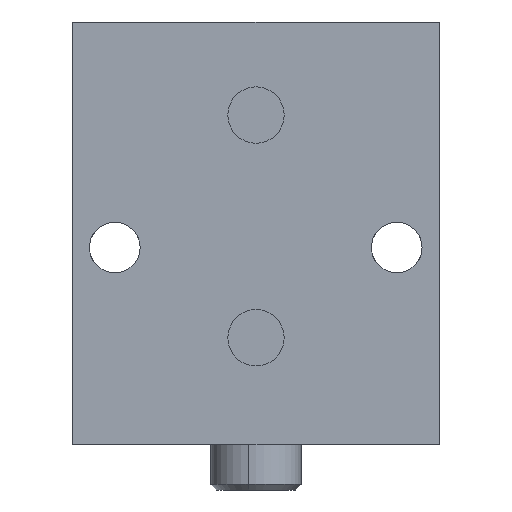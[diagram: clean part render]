
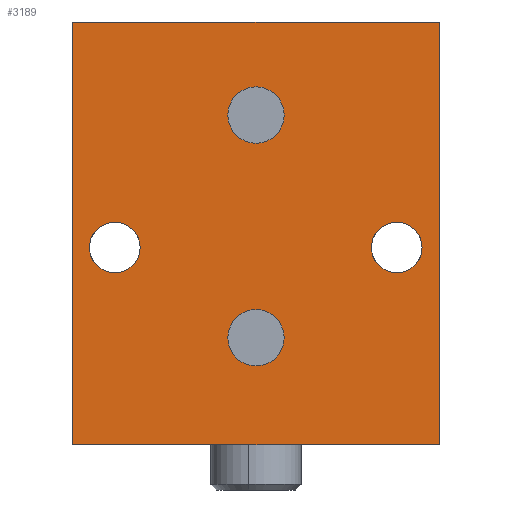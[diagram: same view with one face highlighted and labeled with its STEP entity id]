
A CAD part, front view. The second image highlights one B-rep face of the part: STEP entity #3189.
In plain terms, the highlighted planar face has unit normal (0, -1, 0).
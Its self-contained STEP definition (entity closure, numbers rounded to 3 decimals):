
#67 = VECTOR ( 'NONE', #11872, 1000. ) ;
#77 = CARTESIAN_POINT ( 'NONE',  ( -32.5, 0., -35. ) ) ;
#121 = CARTESIAN_POINT ( 'NONE',  ( -25.045, 0., 4.5 ) ) ;
#279 = AXIS2_PLACEMENT_3D ( 'NONE', #2925, #9216, #3867 ) ;
#339 = ORIENTED_EDGE ( 'NONE', *, *, #9874, .F. ) ;
#384 = FACE_BOUND ( 'NONE', #634, .T. ) ;
#634 = EDGE_LOOP ( 'NONE', ( #4703, #4263 ) ) ;
#720 = DIRECTION ( 'NONE',  ( 0., 0., 1. ) ) ;
#764 = EDGE_CURVE ( 'NONE', #960, #7066, #5320, .T. ) ;
#808 = EDGE_LOOP ( 'NONE', ( #8511, #10202, #4002, #1105 ) ) ;
#810 = EDGE_CURVE ( 'NONE', #7821, #5340, #4740, .T. ) ;
#827 = VERTEX_POINT ( 'NONE', #7441 ) ;
#833 = CARTESIAN_POINT ( 'NONE',  ( 0., 0., 23.5 ) ) ;
#957 = CARTESIAN_POINT ( 'NONE',  ( 0., 0., -16. ) ) ;
#960 = VERTEX_POINT ( 'NONE', #5063 ) ;
#978 = VERTEX_POINT ( 'NONE', #2226 ) ;
#1038 = FACE_BOUND ( 'NONE', #9457, .T. ) ;
#1087 = ORIENTED_EDGE ( 'NONE', *, *, #810, .T. ) ;
#1105 = ORIENTED_EDGE ( 'NONE', *, *, #2781, .F. ) ;
#1321 = EDGE_CURVE ( 'NONE', #7761, #3093, #11622, .T. ) ;
#1461 = CARTESIAN_POINT ( 'NONE',  ( 0., 0., -21. ) ) ;
#1484 = CIRCLE ( 'NONE', #11752, 4.5 ) ;
#1612 = CARTESIAN_POINT ( 'NONE',  ( 24.955, 0., 4.5 ) ) ;
#1700 = CARTESIAN_POINT ( 'NONE',  ( 0., 0., 23.5 ) ) ;
#1841 = DIRECTION ( 'NONE',  ( 0., 0., -1. ) ) ;
#1846 = VERTEX_POINT ( 'NONE', #6250 ) ;
#1913 = CIRCLE ( 'NONE', #11852, 5. ) ;
#1963 = DIRECTION ( 'NONE',  ( 0., 0., -1. ) ) ;
#2067 = ORIENTED_EDGE ( 'NONE', *, *, #5590, .T. ) ;
#2070 = CIRCLE ( 'NONE', #8805, 5. ) ;
#2226 = CARTESIAN_POINT ( 'NONE',  ( 0., 0., -11. ) ) ;
#2290 = LINE ( 'NONE', #11213, #7447 ) ;
#2426 = ORIENTED_EDGE ( 'NONE', *, *, #5560, .F. ) ;
#2698 = DIRECTION ( 'NONE',  ( 0., 0., -1. ) ) ;
#2744 = CARTESIAN_POINT ( 'NONE',  ( 24.955, 0., 0. ) ) ;
#2775 = CARTESIAN_POINT ( 'NONE',  ( 0., 0., -16. ) ) ;
#2781 = EDGE_CURVE ( 'NONE', #827, #960, #2290, .T. ) ;
#2828 = DIRECTION ( 'NONE',  ( 0., 1., 0. ) ) ;
#2925 = CARTESIAN_POINT ( 'NONE',  ( -25.045, 0., 0. ) ) ;
#3055 = FACE_BOUND ( 'NONE', #7521, .T. ) ;
#3091 = ORIENTED_EDGE ( 'NONE', *, *, #7170, .T. ) ;
#3093 = VERTEX_POINT ( 'NONE', #1612 ) ;
#3189 = ADVANCED_FACE ( 'NONE', ( #384, #5571, #1038, #3055, #9911 ), #7319, .F. ) ;
#3674 = DIRECTION ( 'NONE',  ( 0., 0., 1. ) ) ;
#3703 = DIRECTION ( 'NONE',  ( 0., 0., -1. ) ) ;
#3867 = DIRECTION ( 'NONE',  ( 0., 0., 1. ) ) ;
#3914 = CIRCLE ( 'NONE', #7767, 5. ) ;
#4002 = ORIENTED_EDGE ( 'NONE', *, *, #764, .F. ) ;
#4263 = ORIENTED_EDGE ( 'NONE', *, *, #7099, .F. ) ;
#4395 = VERTEX_POINT ( 'NONE', #4562 ) ;
#4526 = VECTOR ( 'NONE', #6758, 1000. ) ;
#4562 = CARTESIAN_POINT ( 'NONE',  ( 0., 0., 28.5 ) ) ;
#4689 = LINE ( 'NONE', #8333, #10588 ) ;
#4703 = ORIENTED_EDGE ( 'NONE', *, *, #6697, .F. ) ;
#4740 = CIRCLE ( 'NONE', #279, 4.5 ) ;
#4792 = CARTESIAN_POINT ( 'NONE',  ( 32.5, 0., -35. ) ) ;
#5063 = CARTESIAN_POINT ( 'NONE',  ( 32.5, 0., 40. ) ) ;
#5320 = LINE ( 'NONE', #4792, #67 ) ;
#5340 = VERTEX_POINT ( 'NONE', #121 ) ;
#5560 = EDGE_CURVE ( 'NONE', #1846, #4395, #2070, .T. ) ;
#5571 = FACE_BOUND ( 'NONE', #5795, .T. ) ;
#5590 = EDGE_CURVE ( 'NONE', #5340, #7821, #9049, .T. ) ;
#5671 = DIRECTION ( 'NONE',  ( 0., 1., 0. ) ) ;
#5775 = CARTESIAN_POINT ( 'NONE',  ( -25.045, 0., -4.5 ) ) ;
#5795 = EDGE_LOOP ( 'NONE', ( #2426, #339 ) ) ;
#6250 = CARTESIAN_POINT ( 'NONE',  ( 0., 0., 18.5 ) ) ;
#6413 = DIRECTION ( 'NONE',  ( 0., 1., 0. ) ) ;
#6420 = VERTEX_POINT ( 'NONE', #1461 ) ;
#6697 = EDGE_CURVE ( 'NONE', #6420, #978, #3914, .T. ) ;
#6758 = DIRECTION ( 'NONE',  ( 0., 0., 1. ) ) ;
#7066 = VERTEX_POINT ( 'NONE', #10592 ) ;
#7099 = EDGE_CURVE ( 'NONE', #978, #6420, #11116, .T. ) ;
#7170 = EDGE_CURVE ( 'NONE', #3093, #7761, #1484, .T. ) ;
#7282 = EDGE_CURVE ( 'NONE', #7066, #9573, #4689, .T. ) ;
#7319 = PLANE ( 'NONE',  #11299 ) ;
#7369 = DIRECTION ( 'NONE',  ( 0., -1., 0. ) ) ;
#7441 = CARTESIAN_POINT ( 'NONE',  ( -32.5, 0., 40. ) ) ;
#7447 = VECTOR ( 'NONE', #12049, 1000. ) ;
#7469 = DIRECTION ( 'NONE',  ( 0., -1., 0. ) ) ;
#7521 = EDGE_LOOP ( 'NONE', ( #3091, #10604 ) ) ;
#7761 = VERTEX_POINT ( 'NONE', #9936 ) ;
#7767 = AXIS2_PLACEMENT_3D ( 'NONE', #957, #7469, #1963 ) ;
#7821 = VERTEX_POINT ( 'NONE', #5775 ) ;
#8108 = DIRECTION ( 'NONE',  ( 0., -1., 0. ) ) ;
#8225 = CARTESIAN_POINT ( 'NONE',  ( 0., 0., 0. ) ) ;
#8333 = CARTESIAN_POINT ( 'NONE',  ( -32.5, 0., -35. ) ) ;
#8445 = CARTESIAN_POINT ( 'NONE',  ( -32.5, 0., -35. ) ) ;
#8511 = ORIENTED_EDGE ( 'NONE', *, *, #8821, .F. ) ;
#8805 = AXIS2_PLACEMENT_3D ( 'NONE', #1700, #8108, #2698 ) ;
#8821 = EDGE_CURVE ( 'NONE', #9573, #827, #8910, .T. ) ;
#8910 = LINE ( 'NONE', #77, #4526 ) ;
#9046 = DIRECTION ( 'NONE',  ( 0., 1., 0. ) ) ;
#9049 = CIRCLE ( 'NONE', #10589, 4.5 ) ;
#9080 = DIRECTION ( 'NONE',  ( 0., -1., 0. ) ) ;
#9124 = DIRECTION ( 'NONE',  ( 0., 0., 1. ) ) ;
#9216 = DIRECTION ( 'NONE',  ( 0., 1., 0. ) ) ;
#9232 = DIRECTION ( 'NONE',  ( -1., 0., 0. ) ) ;
#9457 = EDGE_LOOP ( 'NONE', ( #2067, #1087 ) ) ;
#9573 = VERTEX_POINT ( 'NONE', #8445 ) ;
#9874 = EDGE_CURVE ( 'NONE', #4395, #1846, #1913, .T. ) ;
#9911 = FACE_OUTER_BOUND ( 'NONE', #808, .T. ) ;
#9936 = CARTESIAN_POINT ( 'NONE',  ( 24.955, 0., -4.5 ) ) ;
#10195 = AXIS2_PLACEMENT_3D ( 'NONE', #2744, #9046, #3674 ) ;
#10202 = ORIENTED_EDGE ( 'NONE', *, *, #7282, .F. ) ;
#10524 = AXIS2_PLACEMENT_3D ( 'NONE', #2775, #9080, #3703 ) ;
#10588 = VECTOR ( 'NONE', #9232, 1000. ) ;
#10589 = AXIS2_PLACEMENT_3D ( 'NONE', #11710, #6413, #720 ) ;
#10592 = CARTESIAN_POINT ( 'NONE',  ( 32.5, 0., -35. ) ) ;
#10604 = ORIENTED_EDGE ( 'NONE', *, *, #1321, .T. ) ;
#10874 = CARTESIAN_POINT ( 'NONE',  ( 24.955, 0., 0. ) ) ;
#11116 = CIRCLE ( 'NONE', #10524, 5. ) ;
#11213 = CARTESIAN_POINT ( 'NONE',  ( -32.5, 0., 40. ) ) ;
#11299 = AXIS2_PLACEMENT_3D ( 'NONE', #8225, #2828, #9124 ) ;
#11622 = CIRCLE ( 'NONE', #10195, 4.5 ) ;
#11710 = CARTESIAN_POINT ( 'NONE',  ( -25.045, 0., 0. ) ) ;
#11752 = AXIS2_PLACEMENT_3D ( 'NONE', #10874, #5671, #11843 ) ;
#11843 = DIRECTION ( 'NONE',  ( 0., 0., 1. ) ) ;
#11852 = AXIS2_PLACEMENT_3D ( 'NONE', #833, #7369, #1841 ) ;
#11872 = DIRECTION ( 'NONE',  ( 0., 0., -1. ) ) ;
#12049 = DIRECTION ( 'NONE',  ( 1., 0., 0. ) ) ;
